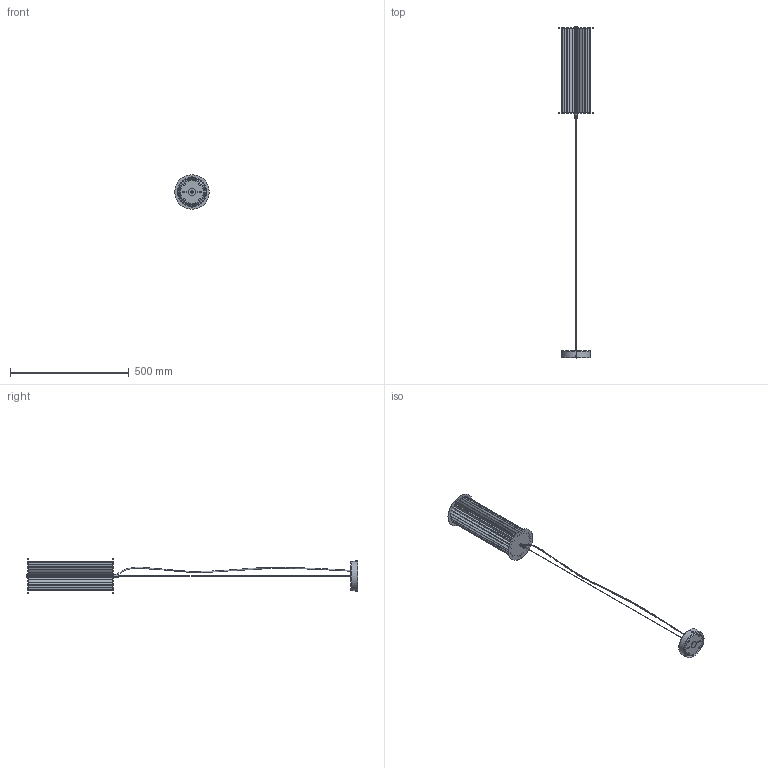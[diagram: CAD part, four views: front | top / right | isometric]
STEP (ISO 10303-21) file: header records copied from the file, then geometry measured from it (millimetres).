
FILE_DESCRIPTION (( 'STEP AP203' ), '1' );
FILE_NAME ('ORI_OR.S036.14_Suspensio 36cm (FORMA).STEP', '2025-07-08T07:52:27', ( '' ), ( '' ), 'SwSTEP 2.0', 'SolidWorks 2013', '' );
FILE_SCHEMA (( 'CONFIG_CONTROL_DESIGN' ));
Length unit declared in the file: millimetre
Products named in the file (12): GU023_CABLE ACER Ø1.5-bola Ø5 (BLACK); GI111_Finalet Ø12x7_M10x1; MS050_Pasacable abierto Ø11xØ4_498070; AG019_M4x8; GU024 - SUSPENSOR M10 Cable Ø1.5 (BLACK); TP477_Pantalla plisada ORI (24 plecs); ORI_OR.S036.14_Suspensio 36cm (FORMA); AR117_FLORÓ ø120x30 2xM4 sistema USA (DOS FORATS); GI471_Tija superior Ø12x50 ranura lat. M10x1_pasØ2; KO219_Cable elèctric ORI suspensio; GI197_SUP. FIXACIÓ FLORÓ 120; GI463-Disc Ø145x2_pas 10
Assembly tree (13 placements, depth 2):
  ORI_OR.S036.14_Suspensio 36cm (FORMA)
    GI463-Disc Ø145x2_pas 10  x2
    GI111_Finalet Ø12x7_M10x1
    GI471_Tija superior Ø12x50 ranura lat. M10x1_pasØ2
    TP477_Pantalla plisada ORI (24 plecs)
    KO219_Cable elèctric ORI suspensio
    GU023_CABLE ACER Ø1.5-bola Ø5 (BLACK)
    AR117_FLORÓ ø120x30 2xM4 sistema USA (DOS FORATS)
    GU024 - SUSPENSOR M10 Cable Ø1.5 (BLACK)
    MS050_Pasacable abierto Ø11xØ4_498070
    GI197_SUP. FIXACIÓ FLORÓ 120
    AG019_M4x8  x2
Bounding box: 145 x 1396 x 145 mm (x, y, z)
Volume: 230016.5 mm3; surface area: 601789.7 mm2
Topology: 13 solids, 13 shells, 417 faces, 1102 edges, 720 vertices
Faces by surface type: plane 201, cylinder 176, torus 24, cone 10, bspline 6
Entity records: 14578 total; most frequent: CARTESIAN_POINT 2992, DIRECTION 2222, ORIENTED_EDGE 2120, EDGE_CURVE 1060, AXIS2_PLACEMENT_3D 792, VERTEX_POINT 694, VECTOR 638, LINE 638
